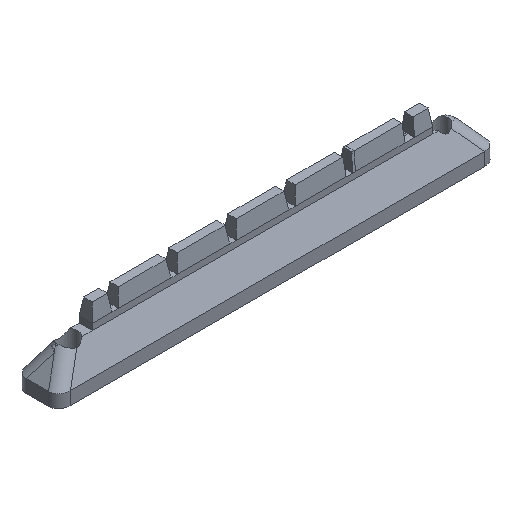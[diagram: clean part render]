
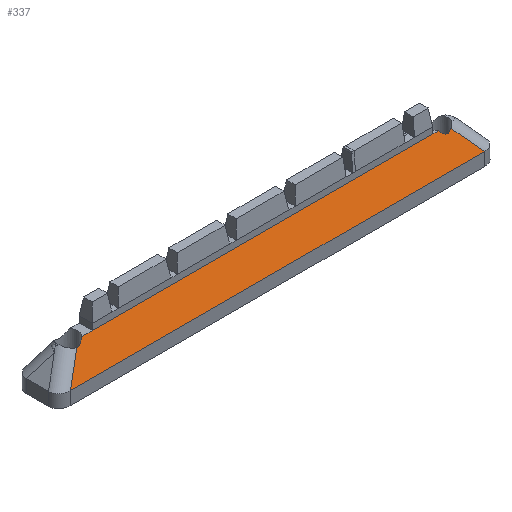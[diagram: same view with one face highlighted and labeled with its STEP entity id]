
A CAD part, isometric view. The second image highlights one B-rep face of the part: STEP entity #337.
In plain terms, the highlighted planar face has unit normal (0, -0.87, 0.493).
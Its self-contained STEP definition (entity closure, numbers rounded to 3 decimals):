
#337=ADVANCED_FACE('',(#1256),#1258,.T.);
#1256=FACE_BOUND('',#1257,.T.);
#1257=EDGE_LOOP('',(#2056,#2057,#2058,#2059,#2060,#2061,#2062,#2063));
#1258=PLANE('',#1259);
#1259=AXIS2_PLACEMENT_3D('',#1260,#1261,#1262);
#1260=CARTESIAN_POINT('',(-10.,0.,8.058));
#1261=DIRECTION('',(0.,-0.87,0.493));
#1262=DIRECTION('',(0.,-0.493,-0.87));
#2056=ORIENTED_EDGE('',*,*,#2518,.F.);
#2057=ORIENTED_EDGE('',*,*,#2519,.T.);
#2058=ORIENTED_EDGE('',*,*,#2520,.T.);
#2059=ORIENTED_EDGE('',*,*,#2521,.F.);
#2060=ORIENTED_EDGE('',*,*,#2450,.T.);
#2061=ORIENTED_EDGE('',*,*,#2522,.F.);
#2062=ORIENTED_EDGE('',*,*,#2523,.T.);
#2063=ORIENTED_EDGE('',*,*,#2524,.T.);
#2450=EDGE_CURVE('',#2740,#2738,#2741,.T.);
#2518=EDGE_CURVE('',#2858,#2859,#2860,.T.);
#2519=EDGE_CURVE('',#2858,#2861,#2862,.F.);
#2520=EDGE_CURVE('',#2861,#2863,#2864,.F.);
#2521=EDGE_CURVE('',#2740,#2863,#2865,.T.);
#2522=EDGE_CURVE('',#2866,#2738,#2867,.T.);
#2523=EDGE_CURVE('',#2866,#2868,#2869,.F.);
#2524=EDGE_CURVE('',#2868,#2859,#2870,.F.);
#2738=VERTEX_POINT('',#3235);
#2740=VERTEX_POINT('',#3239);
#2741=LINE('',#3240,#3241);
#2858=VERTEX_POINT('',#3495);
#2859=VERTEX_POINT('',#3496);
#2860=LINE('',#3497,#3498);
#2861=VERTEX_POINT('',#3500);
#2862=LINE('',#3501,#3502);
#2863=VERTEX_POINT('',#3504);
#2864=(BOUNDED_CURVE()B_SPLINE_CURVE(3,
(#3505,#3506,#3507,#3508),
.UNSPECIFIED.,.F.,.F.)B_SPLINE_CURVE_WITH_KNOTS((4,4),
(0.,1.),
.UNSPECIFIED.)CURVE()GEOMETRIC_REPRESENTATION_ITEM()RATIONAL_B_SPLINE_CURVE((1.,
0.884,0.884,1.))REPRESENTATION_ITEM(''));
#2865=LINE('',#3509,#3510);
#2866=VERTEX_POINT('',#3512);
#2867=LINE('',#3513,#3514);
#2868=VERTEX_POINT('',#3516);
#2869=(BOUNDED_CURVE()B_SPLINE_CURVE(3,
(#3517,#3518,#3519,#3520),
.UNSPECIFIED.,.F.,.F.)B_SPLINE_CURVE_WITH_KNOTS((4,4),
(0.,1.),
.UNSPECIFIED.)CURVE()GEOMETRIC_REPRESENTATION_ITEM()RATIONAL_B_SPLINE_CURVE((1.,
0.947,0.947,1.))REPRESENTATION_ITEM(''));
#2870=LINE('',#3521,#3522);
#3235=CARTESIAN_POINT('',(0.,0.,8.058));
#3239=CARTESIAN_POINT('',(52.,0.,8.058));
#3240=CARTESIAN_POINT('',(52.,0.,8.058));
#3241=VECTOR('',#3242,1.);
#3242=DIRECTION('',(-1.,0.,0.));
#3495=CARTESIAN_POINT('',(57.615,-2.268,4.057));
#3496=CARTESIAN_POINT('',(-5.591,-2.268,4.057));
#3497=CARTESIAN_POINT('',(57.615,-2.268,4.057));
#3498=VECTOR('',#3499,1.);
#3499=DIRECTION('',(-1.,0.,0.));
#3500=CARTESIAN_POINT('',(54.554,-0.226,7.659));
#3501=CARTESIAN_POINT('',(54.554,-0.226,7.659));
#3502=VECTOR('',#3503,1.);
#3503=DIRECTION('',(0.595,-0.396,-0.7));
#3504=CARTESIAN_POINT('',(52.875,0.,8.058));
#3505=CARTESIAN_POINT('',(52.875,0.,8.058));
#3506=CARTESIAN_POINT('',(53.35,-0.428,7.303));
#3507=CARTESIAN_POINT('',(53.983,-0.513,7.153));
#3508=CARTESIAN_POINT('',(54.554,-0.226,7.659));
#3509=CARTESIAN_POINT('',(52.,0.,8.058));
#3510=VECTOR('',#3511,1.);
#3511=DIRECTION('',(1.,0.,0.));
#3512=CARTESIAN_POINT('',(-1.634,0.,8.058));
#3513=CARTESIAN_POINT('',(-1.634,0.,8.058));
#3514=VECTOR('',#3515,1.);
#3515=DIRECTION('',(1.,0.,0.));
#3516=CARTESIAN_POINT('',(-2.74,-0.382,7.383));
#3517=CARTESIAN_POINT('',(-2.74,-0.382,7.383));
#3518=CARTESIAN_POINT('',(-2.329,-0.41,7.334));
#3519=CARTESIAN_POINT('',(-1.94,-0.276,7.572));
#3520=CARTESIAN_POINT('',(-1.634,0.,8.058));
#3521=CARTESIAN_POINT('',(-5.591,-2.268,4.057));
#3522=VECTOR('',#3523,1.);
#3523=DIRECTION('',(0.598,0.395,0.697));
